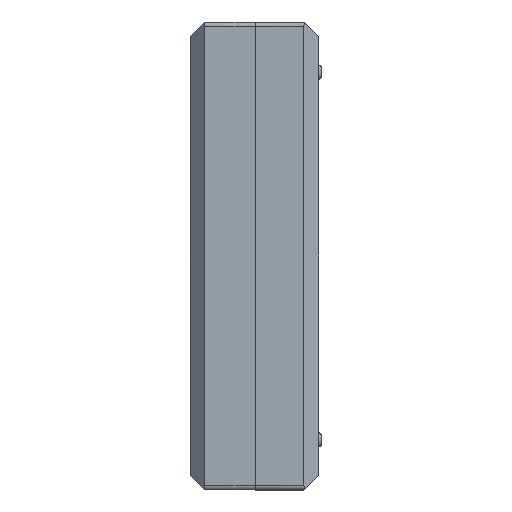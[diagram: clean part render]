
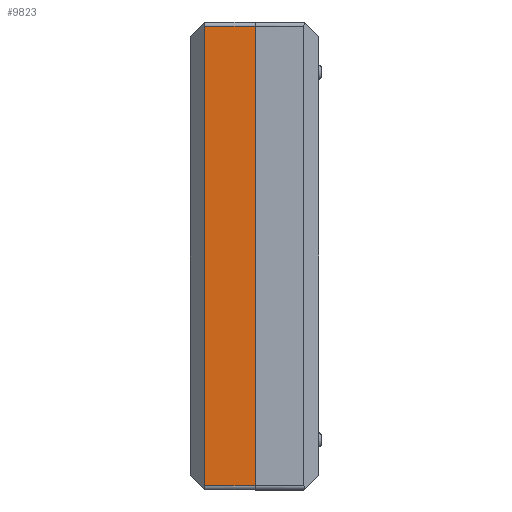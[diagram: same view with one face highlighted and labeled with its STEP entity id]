
A CAD part, left-side view. The second image highlights one B-rep face of the part: STEP entity #9823.
In plain terms, the highlighted planar face has unit normal (-1, 0, 0).
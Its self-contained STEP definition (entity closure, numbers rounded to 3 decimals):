
#48 = DIRECTION ( 'NONE',  ( 0., 0., 1. ) ) ;
#366 = LINE ( 'NONE', #9905, #4511 ) ;
#556 = EDGE_CURVE ( 'NONE', #2645, #800, #3366, .T. ) ;
#800 = VERTEX_POINT ( 'NONE', #9139 ) ;
#838 = EDGE_LOOP ( 'NONE', ( #7198, #7439, #6541, #6199 ) ) ;
#862 = CARTESIAN_POINT ( 'NONE',  ( -100., 15.5, -55. ) ) ;
#1159 = CARTESIAN_POINT ( 'NONE',  ( -100., 15.5, 56. ) ) ;
#1163 = VECTOR ( 'NONE', #5686, 1000. ) ;
#1526 = CARTESIAN_POINT ( 'NONE',  ( -100., 15.5, 55. ) ) ;
#1958 = PLANE ( 'NONE',  #10638 ) ;
#2117 = DIRECTION ( 'NONE',  ( 0., -1., 0. ) ) ;
#2194 = VECTOR ( 'NONE', #4263, 1000. ) ;
#2210 = EDGE_CURVE ( 'NONE', #7285, #2645, #366, .T. ) ;
#2220 = VERTEX_POINT ( 'NONE', #862 ) ;
#2275 = VECTOR ( 'NONE', #2117, 1000. ) ;
#2645 = VERTEX_POINT ( 'NONE', #3000 ) ;
#3000 = CARTESIAN_POINT ( 'NONE',  ( -100., 3.5, 55. ) ) ;
#3023 = EDGE_CURVE ( 'NONE', #2220, #7285, #4491, .T. ) ;
#3366 = LINE ( 'NONE', #1526, #1163 ) ;
#3446 = CARTESIAN_POINT ( 'NONE',  ( -100., 15.5, 56. ) ) ;
#3639 = DIRECTION ( 'NONE',  ( 1., 0., 0. ) ) ;
#4263 = DIRECTION ( 'NONE',  ( 0., 0., 1. ) ) ;
#4491 = LINE ( 'NONE', #4591, #2275 ) ;
#4511 = VECTOR ( 'NONE', #48, 1000. ) ;
#4591 = CARTESIAN_POINT ( 'NONE',  ( -100., 15.5, -55. ) ) ;
#5686 = DIRECTION ( 'NONE',  ( 0., 1., 0. ) ) ;
#6199 = ORIENTED_EDGE ( 'NONE', *, *, #3023, .T. ) ;
#6327 = CARTESIAN_POINT ( 'NONE',  ( -100., 3.5, -55. ) ) ;
#6541 = ORIENTED_EDGE ( 'NONE', *, *, #9672, .F. ) ;
#6928 = DIRECTION ( 'NONE',  ( 0., 0., -1. ) ) ;
#7198 = ORIENTED_EDGE ( 'NONE', *, *, #2210, .T. ) ;
#7285 = VERTEX_POINT ( 'NONE', #6327 ) ;
#7439 = ORIENTED_EDGE ( 'NONE', *, *, #556, .T. ) ;
#7865 = LINE ( 'NONE', #3446, #2194 ) ;
#9139 = CARTESIAN_POINT ( 'NONE',  ( -100., 15.5, 55. ) ) ;
#9672 = EDGE_CURVE ( 'NONE', #2220, #800, #7865, .T. ) ;
#9823 = ADVANCED_FACE ( 'NONE', ( #10582 ), #1958, .F. ) ;
#9905 = CARTESIAN_POINT ( 'NONE',  ( -100., 3.5, 56. ) ) ;
#10582 = FACE_OUTER_BOUND ( 'NONE', #838, .T. ) ;
#10638 = AXIS2_PLACEMENT_3D ( 'NONE', #1159, #3639, #6928 ) ;
